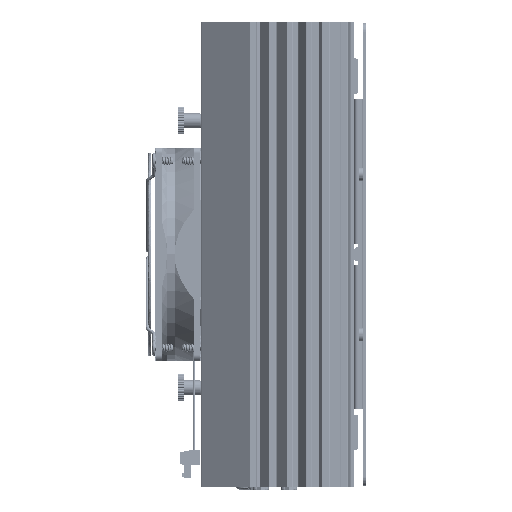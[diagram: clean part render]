
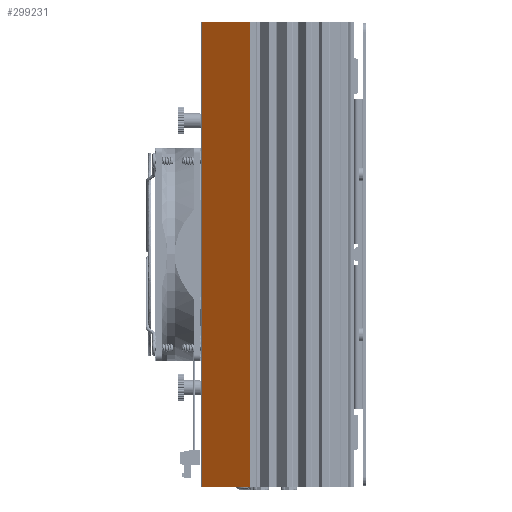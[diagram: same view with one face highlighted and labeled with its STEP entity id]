
A CAD part, left-side view. The second image highlights one B-rep face of the part: STEP entity #299231.
In plain terms, the highlighted planar face has unit normal (-0.819, 0.574, 0).
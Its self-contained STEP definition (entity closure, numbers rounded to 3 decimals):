
#3556 = DIRECTION ( 'NONE',  ( 0., 0., -1. ) ) ;
#4618 = VECTOR ( 'NONE', #313416, 1000. ) ;
#31811 = DIRECTION ( 'NONE',  ( -0.574, -0.819, 0. ) ) ;
#55145 = LINE ( 'NONE', #113864, #145234 ) ;
#58656 = LINE ( 'NONE', #432289, #301321 ) ;
#63559 = ORIENTED_EDGE ( 'NONE', *, *, #332545, .T. ) ;
#103961 = ORIENTED_EDGE ( 'NONE', *, *, #370166, .T. ) ;
#106880 = CARTESIAN_POINT ( 'NONE',  ( -113.398, -7.532, -130.5 ) ) ;
#113864 = CARTESIAN_POINT ( 'NONE',  ( -94.42, 19.571, 130.5 ) ) ;
#114520 = VERTEX_POINT ( 'NONE', #106880 ) ;
#145234 = VECTOR ( 'NONE', #3556, 1000. ) ;
#148202 = AXIS2_PLACEMENT_3D ( 'NONE', #654841, #376172, #489272 ) ;
#181316 = FACE_OUTER_BOUND ( 'NONE', #307376, .T. ) ;
#203033 = CARTESIAN_POINT ( 'NONE',  ( -113.398, -7.532, 130.5 ) ) ;
#299231 = ADVANCED_FACE ( 'NONE', ( #181316 ), #421680, .F. ) ;
#301321 = VECTOR ( 'NONE', #554925, 1000. ) ;
#307376 = EDGE_LOOP ( 'NONE', ( #547588, #63559, #472989, #103961 ) ) ;
#313416 = DIRECTION ( 'NONE',  ( 0., 0., 1. ) ) ;
#332545 = EDGE_CURVE ( 'NONE', #114520, #635955, #614722, .T. ) ;
#342939 = VECTOR ( 'NONE', #31811, 1000. ) ;
#370166 = EDGE_CURVE ( 'NONE', #645224, #403052, #55145, .T. ) ;
#376172 = DIRECTION ( 'NONE',  ( 0.819, -0.574, 0. ) ) ;
#403052 = VERTEX_POINT ( 'NONE', #583320 ) ;
#421680 = PLANE ( 'NONE',  #148202 ) ;
#432289 = CARTESIAN_POINT ( 'NONE',  ( -94.26, 19.8, -130.5 ) ) ;
#472989 = ORIENTED_EDGE ( 'NONE', *, *, #638907, .F. ) ;
#489272 = DIRECTION ( 'NONE',  ( 0.574, 0.819, 0. ) ) ;
#532137 = CARTESIAN_POINT ( 'NONE',  ( -113.398, -7.532, 130.5 ) ) ;
#543375 = CARTESIAN_POINT ( 'NONE',  ( -94.26, 19.8, 130.5 ) ) ;
#547588 = ORIENTED_EDGE ( 'NONE', *, *, #701919, .T. ) ;
#554925 = DIRECTION ( 'NONE',  ( -0.574, -0.819, 0. ) ) ;
#583320 = CARTESIAN_POINT ( 'NONE',  ( -94.42, 19.571, -130.5 ) ) ;
#614722 = LINE ( 'NONE', #203033, #4618 ) ;
#628948 = CARTESIAN_POINT ( 'NONE',  ( -94.42, 19.571, 130.5 ) ) ;
#635955 = VERTEX_POINT ( 'NONE', #532137 ) ;
#638907 = EDGE_CURVE ( 'NONE', #645224, #635955, #693613, .T. ) ;
#645224 = VERTEX_POINT ( 'NONE', #628948 ) ;
#654841 = CARTESIAN_POINT ( 'NONE',  ( -94.26, 19.8, 130.5 ) ) ;
#693613 = LINE ( 'NONE', #543375, #342939 ) ;
#701919 = EDGE_CURVE ( 'NONE', #403052, #114520, #58656, .T. ) ;
